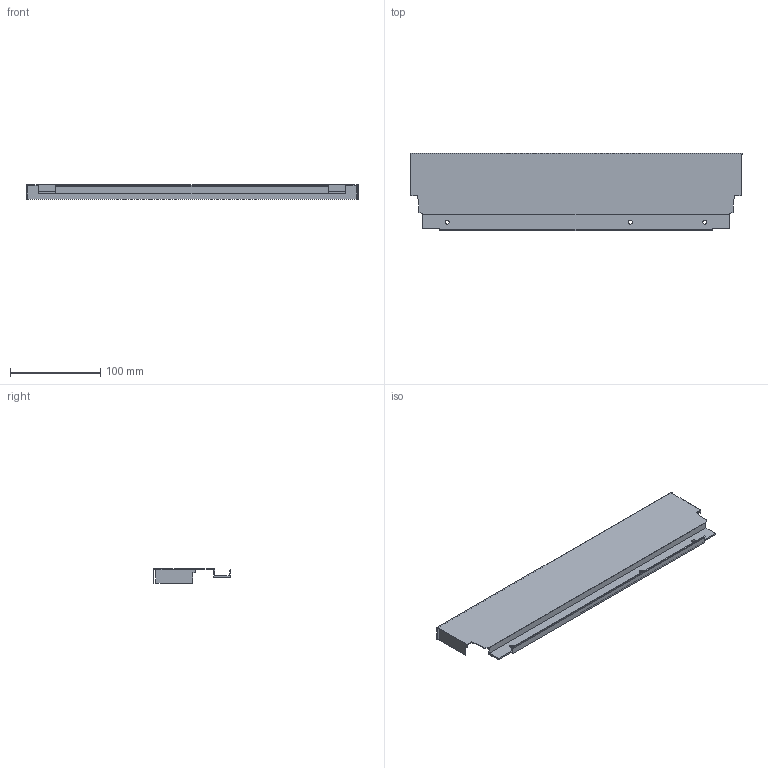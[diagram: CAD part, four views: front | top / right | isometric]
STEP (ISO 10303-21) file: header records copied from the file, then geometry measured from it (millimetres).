
FILE_DESCRIPTION (( 'STEP AP214' ), '1' );
FILE_NAME ('_DWD_XP Stahlrückwand_H86_KAB450_S17.step', '2010-07-08T12:10:06', ( 'grass' ), ( '' ), 'SwSTEP 2.0', 'SolidWorks 2010', '' );
FILE_SCHEMA (( 'AUTOMOTIVE_DESIGN' ));
Length unit declared in the file: millimetre
Products named in the file (1): _DWD_XP Stahlrückwand_H86_KAB450_S17
Bounding box: 367 x 85.79 x 16 mm (x, y, z)
Volume: 38759.6 mm3; surface area: 84922.2 mm2
Topology: 1 solids, 1 shells, 50 faces, 144 edges, 96 vertices
Faces by surface type: plane 44, cylinder 6
Entity records: 1666 total; most frequent: CARTESIAN_POINT 291, ORIENTED_EDGE 288, DIRECTION 258, EDGE_CURVE 144, VECTOR 132, LINE 132, VERTEX_POINT 96, AXIS2_PLACEMENT_3D 63
